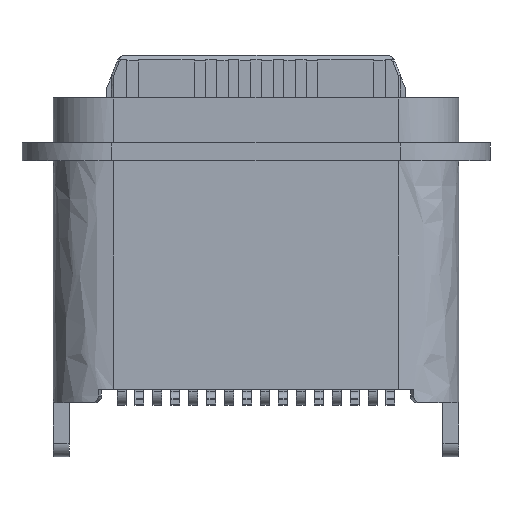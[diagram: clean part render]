
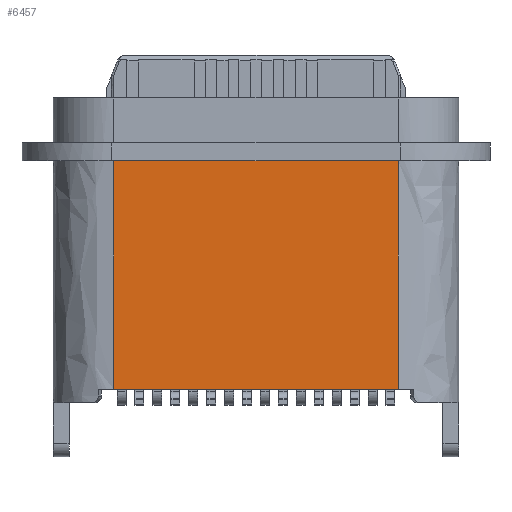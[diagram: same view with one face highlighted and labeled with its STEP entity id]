
A CAD part, front view. The second image highlights one B-rep face of the part: STEP entity #6457.
In plain terms, the highlighted free-form (B-spline) face has degree [1, 1] with [2, 2] control points.
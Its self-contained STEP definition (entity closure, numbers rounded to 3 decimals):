
#126 = ORIENTED_EDGE ( 'NONE', *, *, #7122, .F. ) ;
#136 = B_SPLINE_CURVE_WITH_KNOTS ( 'NONE', 1,
 ( #3725, #5652 ),
 .UNSPECIFIED., .F., .F.,
 ( 2, 2 ),
 ( 0., 1. ),
 .UNSPECIFIED. ) ;
#1199 = CARTESIAN_POINT ( 'NONE',  ( 3.17, -1.63, -6. ) ) ;
#2060 = CARTESIAN_POINT ( 'NONE',  ( -3.297, -1.63, -6.102 ) ) ;
#2124 = FACE_OUTER_BOUND ( 'NONE', #4240, .T. ) ;
#2732 = CARTESIAN_POINT ( 'NONE',  ( -3.17, -1.63, -6. ) ) ;
#2775 = VERTEX_POINT ( 'NONE', #5993 ) ;
#3153 = EDGE_CURVE ( 'NONE', #9040, #7275, #10277, .T. ) ;
#3725 = CARTESIAN_POINT ( 'NONE',  ( -3.17, -1.63, -0.9 ) ) ;
#4240 = EDGE_LOOP ( 'NONE', ( #126, #8515, #7434, #13440 ) ) ;
#4302 = EDGE_CURVE ( 'NONE', #5571, #2775, #136, .T. ) ;
#4660 = CARTESIAN_POINT ( 'NONE',  ( -3.17, -1.63, -6. ) ) ;
#5237 = CARTESIAN_POINT ( 'NONE',  ( 3.297, -1.63, -6.102 ) ) ;
#5433 = CARTESIAN_POINT ( 'NONE',  ( -3.297, -1.63, -0.798 ) ) ;
#5571 = VERTEX_POINT ( 'NONE', #6486 ) ;
#5652 = CARTESIAN_POINT ( 'NONE',  ( 3.17, -1.63, -0.9 ) ) ;
#5762 = CARTESIAN_POINT ( 'NONE',  ( -3.17, -1.63, -6. ) ) ;
#5993 = CARTESIAN_POINT ( 'NONE',  ( 3.17, -1.63, -0.9 ) ) ;
#6457 = ADVANCED_FACE ( 'NONE', ( #2124 ), #11766, .F. ) ;
#6482 = CARTESIAN_POINT ( 'NONE',  ( 3.297, -1.63, -0.798 ) ) ;
#6486 = CARTESIAN_POINT ( 'NONE',  ( -3.17, -1.63, -0.9 ) ) ;
#7122 = EDGE_CURVE ( 'NONE', #2775, #7275, #13134, .T. ) ;
#7266 = B_SPLINE_CURVE_WITH_KNOTS ( 'NONE', 1,
 ( #4660, #12157 ),
 .UNSPECIFIED., .F., .F.,
 ( 2, 2 ),
 ( 0., 1. ),
 .UNSPECIFIED. ) ;
#7275 = VERTEX_POINT ( 'NONE', #1199 ) ;
#7434 = ORIENTED_EDGE ( 'NONE', *, *, #11243, .F. ) ;
#8515 = ORIENTED_EDGE ( 'NONE', *, *, #4302, .F. ) ;
#9040 = VERTEX_POINT ( 'NONE', #5762 ) ;
#9069 = CARTESIAN_POINT ( 'NONE',  ( 3.17, -1.63, -0.9 ) ) ;
#10025 = CARTESIAN_POINT ( 'NONE',  ( 3.17, -1.63, -6. ) ) ;
#10036 = CARTESIAN_POINT ( 'NONE',  ( 3.17, -1.63, -6. ) ) ;
#10277 = B_SPLINE_CURVE_WITH_KNOTS ( 'NONE', 1,
 ( #2732, #10036 ),
 .UNSPECIFIED., .F., .F.,
 ( 2, 2 ),
 ( 0., 1. ),
 .UNSPECIFIED. ) ;
#11243 = EDGE_CURVE ( 'NONE', #9040, #5571, #7266, .T. ) ;
#11766 = B_SPLINE_SURFACE_WITH_KNOTS ( 'NONE', 1, 1, ( 
 ( #5433, #2060 ),
 ( #6482, #5237 ) ),
 .UNSPECIFIED., .F., .F., .F.,
 ( 2, 2 ),
 ( 2, 2 ),
 ( -3.297, 3.297 ),
 ( -2.652, 2.652 ),
 .UNSPECIFIED. ) ;
#12157 = CARTESIAN_POINT ( 'NONE',  ( -3.17, -1.63, -0.9 ) ) ;
#13134 = B_SPLINE_CURVE_WITH_KNOTS ( 'NONE', 1,
 ( #9069, #10025 ),
 .UNSPECIFIED., .F., .F.,
 ( 2, 2 ),
 ( 0., 1. ),
 .UNSPECIFIED. ) ;
#13440 = ORIENTED_EDGE ( 'NONE', *, *, #3153, .T. ) ;
